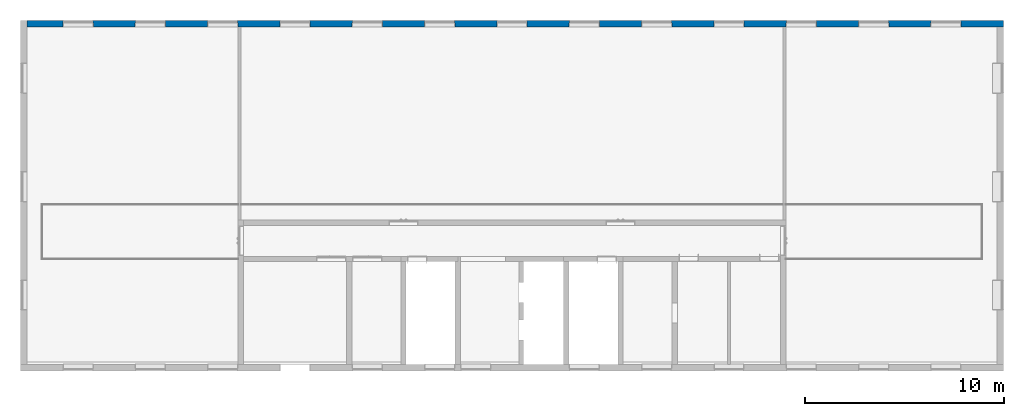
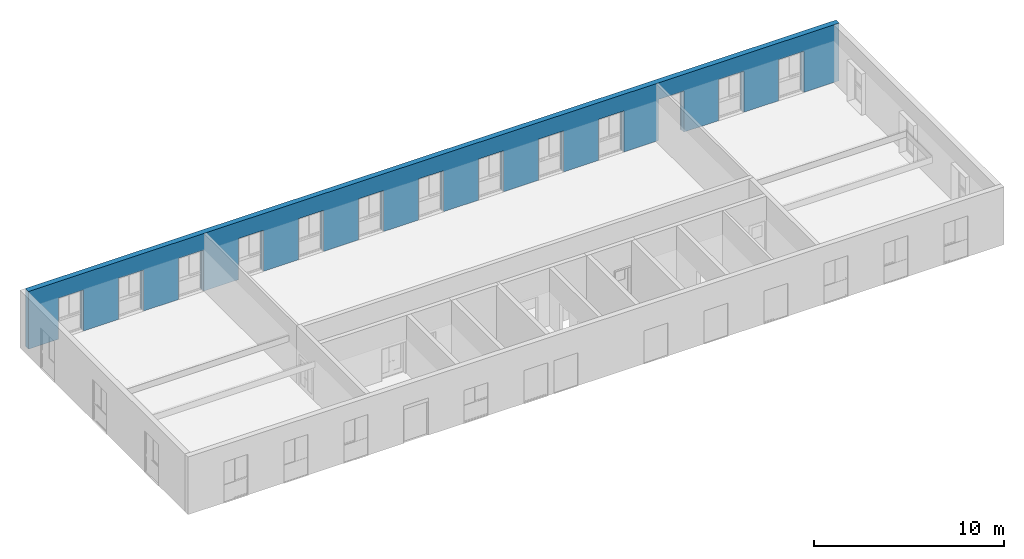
# One storey, part 10 of 15: 1 wall, 13 openings.
"""IFC4X3 building model written with IfcOpenShell, lengths in millimetres."""

from ifc_helpers import new_model, entity, si_unit, converted_unit, derived_unit, direction, frame, frame_2d, origin, place, context, subcontext, project, spatial, rectangle, extrude, faceted_brep, material, layer, layer_set, type_object, element, save


model = new_model("IFC4X3")

# Units and contexts
model_context = context("Model", 3, precision=0.01, world=origin(), true_north=direction((6.12303176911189e-17, 1.0)))
body_context = subcontext(model_context, "Body", "Model", "MODEL_VIEW")
ifc_project = project(units=[si_unit("LENGTHUNIT", "METRE", prefix="MILLI"), si_unit("AREAUNIT", "SQUARE_METRE"), si_unit("VOLUMEUNIT", "CUBIC_METRE"), converted_unit("PLANEANGLEUNIT", "DEGREE", entity("IfcPlaneAngleMeasure", 0.0174532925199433), si_unit("PLANEANGLEUNIT", "RADIAN"), dimensions=[0, 0, 0, 0, 0, 0, 0]), si_unit("MASSUNIT", "GRAM", prefix="KILO"), derived_unit("MASSDENSITYUNIT", [(si_unit("MASSUNIT", "GRAM", prefix="KILO"), 1), (si_unit("LENGTHUNIT", "METRE"), -3)]), derived_unit("IONCONCENTRATIONUNIT", [(si_unit("MASSUNIT", "GRAM", prefix="KILO"), 1), (si_unit("LENGTHUNIT", "METRE"), -3)]), derived_unit("MOMENTOFINERTIAUNIT", [(si_unit("LENGTHUNIT", "METRE"), 4)]), si_unit("TIMEUNIT", "SECOND"), si_unit("FREQUENCYUNIT", "HERTZ"), si_unit("THERMODYNAMICTEMPERATUREUNIT", "DEGREE_CELSIUS"), derived_unit("THERMALTRANSMITTANCEUNIT", [(si_unit("MASSUNIT", "GRAM", prefix="KILO"), 1), (si_unit("THERMODYNAMICTEMPERATUREUNIT", "KELVIN"), -1), (si_unit("TIMEUNIT", "SECOND"), -3)]), derived_unit("THERMALCONDUCTANCEUNIT", [(si_unit("MASSUNIT", "GRAM", prefix="KILO"), 1), (si_unit("THERMODYNAMICTEMPERATUREUNIT", "KELVIN"), -1), (si_unit("TIMEUNIT", "SECOND"), -3), (si_unit("LENGTHUNIT", "METRE"), 1)]), derived_unit("VOLUMETRICFLOWRATEUNIT", [(si_unit("LENGTHUNIT", "METRE", prefix="DECI"), 3), (si_unit("TIMEUNIT", "SECOND"), -1)]), derived_unit("MASSFLOWRATEUNIT", [(si_unit("MASSUNIT", "GRAM", prefix="KILO"), 1), (si_unit("TIMEUNIT", "SECOND"), -1)]), derived_unit("ROTATIONALFREQUENCYUNIT", [(si_unit("TIMEUNIT", "SECOND"), -1)]), si_unit("ELECTRICCURRENTUNIT", "AMPERE"), si_unit("ELECTRICVOLTAGEUNIT", "VOLT"), si_unit("POWERUNIT", "WATT"), si_unit("FORCEUNIT", "NEWTON", prefix="KILO"), si_unit("ILLUMINANCEUNIT", "LUX"), si_unit("LUMINOUSFLUXUNIT", "LUMEN"), si_unit("LUMINOUSINTENSITYUNIT", "CANDELA"), si_unit("ENERGYUNIT", "JOULE"), derived_unit("USERDEFINED", [(si_unit("MASSUNIT", "GRAM", prefix="KILO"), -1), (si_unit("LENGTHUNIT", "METRE"), -2), (si_unit("TIMEUNIT", "SECOND"), 3), (si_unit("LUMINOUSFLUXUNIT", "LUMEN"), 1)]), derived_unit("USERDEFINED", [(si_unit("MASSUNIT", "GRAM", prefix="KILO"), 1), (si_unit("TIMEUNIT", "SECOND"), -3), (si_unit("LENGTHUNIT", "METRE"), 3), (si_unit("ELECTRICCURRENTUNIT", "AMPERE"), -2)]), derived_unit("SOUNDPOWERUNIT", [(si_unit("MASSUNIT", "GRAM", prefix="KILO"), 1), (si_unit("TIMEUNIT", "SECOND"), -3), (si_unit("LENGTHUNIT", "METRE"), 2)]), derived_unit("SOUNDPRESSUREUNIT", [(si_unit("MASSUNIT", "GRAM", prefix="KILO"), 1), (si_unit("LENGTHUNIT", "METRE"), -1), (si_unit("TIMEUNIT", "SECOND"), -2)]), derived_unit("LINEARVELOCITYUNIT", [(si_unit("LENGTHUNIT", "METRE"), 1), (si_unit("TIMEUNIT", "SECOND"), -1)]), si_unit("PRESSUREUNIT", "PASCAL"), derived_unit("USERDEFINED", [(si_unit("MASSUNIT", "GRAM", prefix="KILO"), 1), (si_unit("LENGTHUNIT", "METRE"), -2), (si_unit("TIMEUNIT", "SECOND"), -2)]), derived_unit("LINEARFORCEUNIT", [(si_unit("MASSUNIT", "GRAM", prefix="KILO"), 1), (si_unit("TIMEUNIT", "SECOND"), -2)]), derived_unit("PLANARFORCEUNIT", [(si_unit("MASSUNIT", "GRAM", prefix="KILO"), 1), (si_unit("LENGTHUNIT", "METRE"), -1), (si_unit("TIMEUNIT", "SECOND"), -2)]), derived_unit("SPECIFICHEATCAPACITYUNIT", [(si_unit("THERMODYNAMICTEMPERATUREUNIT", "KELVIN"), -1), (si_unit("LENGTHUNIT", "METRE"), 2), (si_unit("TIMEUNIT", "SECOND"), -2)]), derived_unit("HEATFLUXDENSITYUNIT", [(si_unit("MASSUNIT", "GRAM", prefix="KILO"), 1), (si_unit("TIMEUNIT", "SECOND"), -3)]), derived_unit("HEATINGVALUEUNIT", [(si_unit("LENGTHUNIT", "METRE"), 2), (si_unit("TIMEUNIT", "SECOND"), -2)]), derived_unit("VAPORPERMEABILITYUNIT", [(si_unit("LENGTHUNIT", "METRE"), -1), (si_unit("TIMEUNIT", "SECOND"), 1)]), derived_unit("DYNAMICVISCOSITYUNIT", [(si_unit("MASSUNIT", "GRAM", prefix="KILO"), 1), (si_unit("TIMEUNIT", "SECOND"), -1), (si_unit("LENGTHUNIT", "METRE"), -1)]), derived_unit("THERMALEXPANSIONCOEFFICIENTUNIT", [(si_unit("THERMODYNAMICTEMPERATUREUNIT", "KELVIN"), -1)]), derived_unit("MODULUSOFELASTICITYUNIT", [(si_unit("MASSUNIT", "GRAM", prefix="KILO"), 1), (si_unit("LENGTHUNIT", "METRE"), -1), (si_unit("TIMEUNIT", "SECOND"), -2)]), derived_unit("ISOTHERMALMOISTURECAPACITYUNIT", [(si_unit("MASSUNIT", "GRAM", prefix="KILO"), -1), (si_unit("LENGTHUNIT", "METRE"), 3)]), derived_unit("MOISTUREDIFFUSIVITYUNIT", [(si_unit("TIMEUNIT", "SECOND"), -1), (si_unit("LENGTHUNIT", "METRE"), 2)]), derived_unit("AREADENSITYUNIT", [(si_unit("MASSUNIT", "GRAM", prefix="KILO"), 1), (si_unit("LENGTHUNIT", "METRE"), 2)]), derived_unit("MASSPERLENGTHUNIT", [(si_unit("MASSUNIT", "GRAM", prefix="KILO"), 1), (si_unit("LENGTHUNIT", "METRE"), -1)]), derived_unit("THERMALRESISTANCEUNIT", [(si_unit("MASSUNIT", "GRAM", prefix="KILO"), -1), (si_unit("TIMEUNIT", "SECOND"), 3), (si_unit("THERMODYNAMICTEMPERATUREUNIT", "KELVIN"), 1)]), derived_unit("ACCELERATIONUNIT", [(si_unit("LENGTHUNIT", "METRE"), 1), (si_unit("TIMEUNIT", "SECOND"), -2)]), derived_unit("ANGULARVELOCITYUNIT", [(si_unit("TIMEUNIT", "SECOND"), -1), (si_unit("PLANEANGLEUNIT", "RADIAN"), 1)]), derived_unit("LINEARSTIFFNESSUNIT", [(si_unit("MASSUNIT", "GRAM", prefix="KILO"), 1), (si_unit("TIMEUNIT", "SECOND"), -2)]), derived_unit("WARPINGCONSTANTUNIT", [(si_unit("LENGTHUNIT", "METRE"), 6)]), derived_unit("LINEARMOMENTUNIT", [(si_unit("MASSUNIT", "GRAM", prefix="KILO"), 1), (si_unit("LENGTHUNIT", "METRE"), 1), (si_unit("TIMEUNIT", "SECOND"), -2)]), derived_unit("TORQUEUNIT", [(si_unit("MASSUNIT", "GRAM", prefix="KILO"), 1), (si_unit("LENGTHUNIT", "METRE"), 2), (si_unit("TIMEUNIT", "SECOND"), -2)])], contexts=[model_context])

# Site, building, storey
site_placement = place(None, origin())
site = spatial("IfcSite", under=ifc_project, at=site_placement, Name="Default", CompositionType="ELEMENT")
building_placement = place(site_placement, origin())
building = spatial("IfcBuilding", under=site, at=building_placement, Name="事務所ビル", CompositionType="ELEMENT")
storey_placement = place(building_placement, frame((0.0, 0.0, 4300.0)))
storey = spatial("IfcBuildingStorey", under=building, at=storey_placement, Name="2FL", CompositionType="ELEMENT", Elevation=4300.0)

# Wall, openings
ifc_material_1 = material(Name="<Unnamed>")
ifc_layer_1 = layer(ifc_material_1, 46.0, Name="Layer")
ifc_material_2 = material(Name="合板", Category="一般")
ifc_layer_2 = layer(ifc_material_2, 12.0, Name="合板", Category="一般")
ifc_material_3 = material(Name="天然木材", Category="一般")
ifc_layer_3 = layer(ifc_material_3, 240.0, Name="天然木材", Category="一般")
ifc_layer_4 = layer(ifc_material_2, 12.0, Name="合板", Category="一般")
ifc_material_4 = material(Name="せっこうボード", Category="一般")
ifc_layer_5 = layer(ifc_material_4, 15.0, Name="せっこうボード", Category="一般")
ifc_layer_set = layer_set([ifc_layer_1, ifc_layer_2, ifc_layer_3, ifc_layer_4, ifc_layer_5], Name="標準壁:外装材46_構造用合板12_木240_構造用合板12_GB-R15")
wall_type = type_object("IfcWallType", Name="標準壁:外装材46_構造用合板12_木240_構", PredefinedType="STANDARD", material=ifc_layer_set)
wall_placement = place(storey_placement, frame((147.0, 17305.4999999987, 0.0)))
wall = element("IfcWall", 1, at=wall_placement, inside=storey, type_object=wall_type, material=ifc_layer_set, Name="標準壁:外装材46_構造用合板12_木240_構造用合板12_GB-R15", ObjectType="標準壁:外装材46_構造用合板12_木240_構造用合板12_GB-R15", PredefinedType="NOTDEFINED", context=body_context, shape_type="SweptSolid", body=[
    extrude(rectangle(XDim=49170.9999999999, YDim=325.0, at=frame_2d((24585.5, 0.0), x_axis=(1.0, 0.0))), origin(), (0.0, 0.0, 1.0), 3700.0),
])
opening_1_placement = place(wall_placement, frame((-147.0, -17305.4999999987, 0.0)))
element("IfcOpeningElement", 2, at=opening_1_placement, cuts=wall, Name="標準壁:外装材46_構造用合板12_木240_構造用合板12_GB-R15", PredefinedType="OPENING", context=body_context, shape_type="Brep", body=[
    faceted_brep([(45655.0, 17338.0, -105.0), (47165.0, 17338.0, -105.0), (47165.0, 17338.0, -35.0), (45655.0, 17338.0, -35.0), (45675.0, 17408.0, 2610.0), (45675.0, 17468.0, 2610.0), (45675.0, 17468.0, -10.0), (45675.0, 17408.0, -10.0), (47145.0, 17408.0, -10.0), (47145.0, 17468.0, -10.0), (47145.0, 17468.0, 2610.0), (47145.0, 17408.0, 2610.0), (45645.0, 17133.0, -35.0), (45645.0, 17133.0, 2635.0), (45645.0, 17338.0, 2635.0), (45645.0, 17338.0, -35.0), (47175.0, 17133.0, -35.0), (47175.0, 17338.0, -35.0), (47175.0, 17338.0, 2635.0), (47175.0, 17133.0, 2635.0), (47165.0, 17338.0, 2630.0), (45655.0, 17338.0, 2630.0), (45655.0, 17408.0, 2630.0), (45655.0, 17408.0, -115.769230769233), (47165.0, 17408.0, -115.769230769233), (47165.0, 17408.0, 2630.0)], [[[0, 1, 2, 3]], [[4, 5, 6, 7]], [[8, 9, 10, 11]], [[7, 6, 9, 8]], [[5, 4, 11, 10]], [[12, 13, 14, 15]], [[16, 17, 18, 19]], [[12, 15, 3, 2, 17, 16]], [[15, 14, 18, 17, 2, 20, 21, 3]], [[14, 13, 19, 18]], [[13, 12, 16, 19]], [[21, 22, 23, 0, 3]], [[1, 24, 25, 20, 2]], [[0, 23, 24, 1]], [[23, 22, 25, 24], [4, 7, 8, 11]], [[22, 21, 20, 25]], [[6, 5, 10, 9]]]),
])
opening_2_placement = place(wall_placement, frame((-147.0, -17305.4999999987, 0.0)))
element("IfcOpeningElement", 3, at=opening_2_placement, cuts=wall, Name="標準壁:外装材46_構造用合板12_木240_構造用合板12_GB-R15", PredefinedType="OPENING", context=body_context, shape_type="Brep", body=[
    faceted_brep([(42015.0, 17338.0, -105.0), (43525.0, 17338.0, -105.0), (43525.0, 17338.0, -35.0), (42015.0, 17338.0, -35.0), (42035.0, 17408.0, 2610.0), (42035.0, 17468.0, 2610.0), (42035.0, 17468.0, -10.0), (42035.0, 17408.0, -10.0), (43505.0, 17408.0, -10.0), (43505.0, 17468.0, -10.0), (43505.0, 17468.0, 2610.0), (43505.0, 17408.0, 2610.0), (42005.0, 17133.0, -35.0), (42005.0, 17133.0, 2635.0), (42005.0, 17338.0, 2635.0), (42005.0, 17338.0, -35.0), (43535.0, 17133.0, -35.0), (43535.0, 17338.0, -35.0), (43535.0, 17338.0, 2635.0), (43535.0, 17133.0, 2635.0), (43525.0, 17338.0, 2630.0), (42015.0, 17338.0, 2630.0), (42015.0, 17408.0, 2630.0), (42015.0, 17408.0, -115.769230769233), (43525.0, 17408.0, -115.769230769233), (43525.0, 17408.0, 2630.0)], [[[0, 1, 2, 3]], [[4, 5, 6, 7]], [[8, 9, 10, 11]], [[7, 6, 9, 8]], [[5, 4, 11, 10]], [[12, 13, 14, 15]], [[16, 17, 18, 19]], [[12, 15, 3, 2, 17, 16]], [[15, 14, 18, 17, 2, 20, 21, 3]], [[14, 13, 19, 18]], [[13, 12, 16, 19]], [[21, 22, 23, 0, 3]], [[1, 24, 25, 20, 2]], [[0, 23, 24, 1]], [[23, 22, 25, 24], [4, 7, 8, 11]], [[22, 21, 20, 25]], [[6, 5, 10, 9]]]),
])
opening_3_placement = place(wall_placement, frame((-147.0, -17305.4999999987, 0.0)))
element("IfcOpeningElement", 4, at=opening_3_placement, cuts=wall, Name="標準壁:外装材46_構造用合板12_木240_構造用合板12_GB-R15", PredefinedType="OPENING", context=body_context, shape_type="Brep", body=[
    faceted_brep([(38375.0, 17338.0, -105.0), (39885.0, 17338.0, -105.0), (39885.0, 17338.0, -35.0), (38375.0, 17338.0, -35.0), (38395.0, 17408.0, 2610.0), (38395.0, 17468.0, 2610.0), (38395.0, 17468.0, -10.0), (38395.0, 17408.0, -10.0), (39865.0, 17408.0, -10.0), (39865.0, 17468.0, -10.0), (39865.0, 17468.0, 2610.0), (39865.0, 17408.0, 2610.0), (38365.0, 17133.0, -35.0), (38365.0, 17133.0, 2635.0), (38365.0, 17338.0, 2635.0), (38365.0, 17338.0, -35.0), (39895.0, 17133.0, -35.0), (39895.0, 17338.0, -35.0), (39895.0, 17338.0, 2635.0), (39895.0, 17133.0, 2635.0), (39885.0, 17338.0, 2630.0), (38375.0, 17338.0, 2630.0), (38375.0, 17408.0, 2630.0), (38375.0, 17408.0, -115.769230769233), (39885.0, 17408.0, -115.769230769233), (39885.0, 17408.0, 2630.0)], [[[0, 1, 2, 3]], [[4, 5, 6, 7]], [[8, 9, 10, 11]], [[7, 6, 9, 8]], [[5, 4, 11, 10]], [[12, 13, 14, 15]], [[16, 17, 18, 19]], [[12, 15, 3, 2, 17, 16]], [[15, 14, 18, 17, 2, 20, 21, 3]], [[14, 13, 19, 18]], [[13, 12, 16, 19]], [[21, 22, 23, 0, 3]], [[1, 24, 25, 20, 2]], [[0, 23, 24, 1]], [[23, 22, 25, 24], [4, 7, 8, 11]], [[22, 21, 20, 25]], [[6, 5, 10, 9]]]),
])
opening_4_placement = place(wall_placement, frame((-147.0, -17305.4999999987, 0.0)))
element("IfcOpeningElement", 5, at=opening_4_placement, cuts=wall, Name="標準壁:外装材46_構造用合板12_木240_構造用合板12_GB-R15", PredefinedType="OPENING", context=body_context, shape_type="Brep", body=[
    faceted_brep([(34735.0, 17338.0, -105.0), (36245.0, 17338.0, -105.0), (36245.0, 17338.0, -35.0), (34735.0, 17338.0, -35.0), (34755.0, 17408.0, 2610.0), (34755.0, 17468.0, 2610.0), (34755.0, 17468.0, -10.0), (34755.0, 17408.0, -10.0), (36225.0, 17408.0, -10.0), (36225.0, 17468.0, -10.0), (36225.0, 17468.0, 2610.0), (36225.0, 17408.0, 2610.0), (34725.0, 17133.0, -35.0), (34725.0, 17133.0, 2635.0), (34725.0, 17338.0, 2635.0), (34725.0, 17338.0, -35.0), (36255.0, 17133.0, -35.0), (36255.0, 17338.0, -35.0), (36255.0, 17338.0, 2635.0), (36255.0, 17133.0, 2635.0), (36245.0, 17338.0, 2630.0), (34735.0, 17338.0, 2630.0), (34735.0, 17408.0, 2630.0), (34735.0, 17408.0, -115.769230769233), (36245.0, 17408.0, -115.769230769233), (36245.0, 17408.0, 2630.0)], [[[0, 1, 2, 3]], [[4, 5, 6, 7]], [[8, 9, 10, 11]], [[7, 6, 9, 8]], [[5, 4, 11, 10]], [[12, 13, 14, 15]], [[16, 17, 18, 19]], [[12, 15, 3, 2, 17, 16]], [[15, 14, 18, 17, 2, 20, 21, 3]], [[14, 13, 19, 18]], [[13, 12, 16, 19]], [[21, 22, 23, 0, 3]], [[1, 24, 25, 20, 2]], [[0, 23, 24, 1]], [[23, 22, 25, 24], [4, 7, 8, 11]], [[22, 21, 20, 25]], [[6, 5, 10, 9]]]),
])
opening_5_placement = place(wall_placement, frame((-147.0, -17305.4999999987, 0.0)))
element("IfcOpeningElement", 6, at=opening_5_placement, cuts=wall, Name="標準壁:外装材46_構造用合板12_木240_構造用合板12_GB-R15", PredefinedType="OPENING", context=body_context, shape_type="Brep", body=[
    faceted_brep([(31095.0, 17338.0, -105.0), (32605.0, 17338.0, -105.0), (32605.0, 17338.0, -35.0), (31095.0, 17338.0, -35.0), (31115.0, 17408.0, 2610.0), (31115.0, 17468.0, 2610.0), (31115.0, 17468.0, -10.0), (31115.0, 17408.0, -10.0), (32585.0, 17408.0, -10.0), (32585.0, 17468.0, -10.0), (32585.0, 17468.0, 2610.0), (32585.0, 17408.0, 2610.0), (31085.0, 17133.0, -35.0), (31085.0, 17133.0, 2635.0), (31085.0, 17338.0, 2635.0), (31085.0, 17338.0, -35.0), (32615.0, 17133.0, -35.0), (32615.0, 17338.0, -35.0), (32615.0, 17338.0, 2635.0), (32615.0, 17133.0, 2635.0), (32605.0, 17338.0, 2630.0), (31095.0, 17338.0, 2630.0), (31095.0, 17408.0, 2630.0), (31095.0, 17408.0, -115.769230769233), (32605.0, 17408.0, -115.769230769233), (32605.0, 17408.0, 2630.0)], [[[0, 1, 2, 3]], [[4, 5, 6, 7]], [[8, 9, 10, 11]], [[7, 6, 9, 8]], [[5, 4, 11, 10]], [[12, 13, 14, 15]], [[16, 17, 18, 19]], [[12, 15, 3, 2, 17, 16]], [[15, 14, 18, 17, 2, 20, 21, 3]], [[14, 13, 19, 18]], [[13, 12, 16, 19]], [[21, 22, 23, 0, 3]], [[1, 24, 25, 20, 2]], [[0, 23, 24, 1]], [[23, 22, 25, 24], [4, 7, 8, 11]], [[22, 21, 20, 25]], [[6, 5, 10, 9]]]),
])
opening_6_placement = place(wall_placement, frame((-147.0, -17305.4999999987, 0.0)))
element("IfcOpeningElement", 7, at=opening_6_placement, cuts=wall, Name="標準壁:外装材46_構造用合板12_木240_構造用合板12_GB-R15", PredefinedType="OPENING", context=body_context, shape_type="Brep", body=[
    faceted_brep([(27455.0, 17338.0, -105.0), (28965.0, 17338.0, -105.0), (28965.0, 17338.0, -35.0), (27455.0, 17338.0, -35.0), (27475.0, 17408.0, 2610.0), (27475.0, 17468.0, 2610.0), (27475.0, 17468.0, -10.0), (27475.0, 17408.0, -10.0), (28945.0, 17408.0, -10.0), (28945.0, 17468.0, -10.0), (28945.0, 17468.0, 2610.0), (28945.0, 17408.0, 2610.0), (27445.0, 17133.0, -35.0), (27445.0, 17133.0, 2635.0), (27445.0, 17338.0, 2635.0), (27445.0, 17338.0, -35.0), (28975.0, 17133.0, -35.0), (28975.0, 17338.0, -35.0), (28975.0, 17338.0, 2635.0), (28975.0, 17133.0, 2635.0), (28965.0, 17338.0, 2630.0), (27455.0, 17338.0, 2630.0), (27455.0, 17408.0, 2630.0), (27455.0, 17408.0, -115.769230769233), (28965.0, 17408.0, -115.769230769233), (28965.0, 17408.0, 2630.0)], [[[0, 1, 2, 3]], [[4, 5, 6, 7]], [[8, 9, 10, 11]], [[7, 6, 9, 8]], [[5, 4, 11, 10]], [[12, 13, 14, 15]], [[16, 17, 18, 19]], [[12, 15, 3, 2, 17, 16]], [[15, 14, 18, 17, 2, 20, 21, 3]], [[14, 13, 19, 18]], [[13, 12, 16, 19]], [[21, 22, 23, 0, 3]], [[1, 24, 25, 20, 2]], [[0, 23, 24, 1]], [[23, 22, 25, 24], [4, 7, 8, 11]], [[22, 21, 20, 25]], [[6, 5, 10, 9]]]),
])
opening_7_placement = place(wall_placement, frame((-147.0, -17305.4999999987, 0.0)))
element("IfcOpeningElement", 8, at=opening_7_placement, cuts=wall, Name="標準壁:外装材46_構造用合板12_木240_構造用合板12_GB-R15", PredefinedType="OPENING", context=body_context, shape_type="Brep", body=[
    faceted_brep([(23815.0, 17338.0, -105.0), (25325.0, 17338.0, -105.0), (25325.0, 17338.0, -35.0), (23815.0, 17338.0, -35.0), (23835.0, 17408.0, 2610.0), (23835.0, 17468.0, 2610.0), (23835.0, 17468.0, -10.0), (23835.0, 17408.0, -10.0), (25305.0, 17408.0, -10.0), (25305.0, 17468.0, -10.0), (25305.0, 17468.0, 2610.0), (25305.0, 17408.0, 2610.0), (23805.0, 17133.0, -35.0), (23805.0, 17133.0, 2635.0), (23805.0, 17338.0, 2635.0), (23805.0, 17338.0, -35.0), (25335.0, 17133.0, -35.0), (25335.0, 17338.0, -35.0), (25335.0, 17338.0, 2635.0), (25335.0, 17133.0, 2635.0), (25325.0, 17338.0, 2630.0), (23815.0, 17338.0, 2630.0), (23815.0, 17408.0, 2630.0), (23815.0, 17408.0, -115.769230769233), (25325.0, 17408.0, -115.769230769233), (25325.0, 17408.0, 2630.0)], [[[0, 1, 2, 3]], [[4, 5, 6, 7]], [[8, 9, 10, 11]], [[7, 6, 9, 8]], [[5, 4, 11, 10]], [[12, 13, 14, 15]], [[16, 17, 18, 19]], [[12, 15, 3, 2, 17, 16]], [[15, 14, 18, 17, 2, 20, 21, 3]], [[14, 13, 19, 18]], [[13, 12, 16, 19]], [[21, 22, 23, 0, 3]], [[1, 24, 25, 20, 2]], [[0, 23, 24, 1]], [[23, 22, 25, 24], [4, 7, 8, 11]], [[22, 21, 20, 25]], [[6, 5, 10, 9]]]),
])
opening_8_placement = place(wall_placement, frame((-147.0, -17305.4999999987, 0.0)))
element("IfcOpeningElement", 9, at=opening_8_placement, cuts=wall, Name="標準壁:外装材46_構造用合板12_木240_構造用合板12_GB-R15", PredefinedType="OPENING", context=body_context, shape_type="Brep", body=[
    faceted_brep([(20175.0, 17338.0, -105.0), (21685.0, 17338.0, -105.0), (21685.0, 17338.0, -35.0), (20175.0, 17338.0, -35.0), (20195.0, 17408.0, 2610.0), (20195.0, 17468.0, 2610.0), (20195.0, 17468.0, -10.0), (20195.0, 17408.0, -10.0), (21665.0, 17408.0, -10.0), (21665.0, 17468.0, -10.0), (21665.0, 17468.0, 2610.0), (21665.0, 17408.0, 2610.0), (20165.0, 17133.0, -35.0), (20165.0, 17133.0, 2635.0), (20165.0, 17338.0, 2635.0), (20165.0, 17338.0, -35.0), (21695.0, 17133.0, -35.0), (21695.0, 17338.0, -35.0), (21695.0, 17338.0, 2635.0), (21695.0, 17133.0, 2635.0), (21685.0, 17338.0, 2630.0), (20175.0, 17338.0, 2630.0), (20175.0, 17408.0, 2630.0), (20175.0, 17408.0, -115.769230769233), (21685.0, 17408.0, -115.769230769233), (21685.0, 17408.0, 2630.0)], [[[0, 1, 2, 3]], [[4, 5, 6, 7]], [[8, 9, 10, 11]], [[7, 6, 9, 8]], [[5, 4, 11, 10]], [[12, 13, 14, 15]], [[16, 17, 18, 19]], [[12, 15, 3, 2, 17, 16]], [[15, 14, 18, 17, 2, 20, 21, 3]], [[14, 13, 19, 18]], [[13, 12, 16, 19]], [[21, 22, 23, 0, 3]], [[1, 24, 25, 20, 2]], [[0, 23, 24, 1]], [[23, 22, 25, 24], [4, 7, 8, 11]], [[22, 21, 20, 25]], [[6, 5, 10, 9]]]),
])
opening_9_placement = place(wall_placement, frame((-147.0, -17305.4999999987, 0.0)))
element("IfcOpeningElement", 10, at=opening_9_placement, cuts=wall, Name="標準壁:外装材46_構造用合板12_木240_構造用合板12_GB-R15", PredefinedType="OPENING", context=body_context, shape_type="Brep", body=[
    faceted_brep([(16535.0, 17338.0, -105.0), (18045.0, 17338.0, -105.0), (18045.0, 17338.0, -35.0), (16535.0, 17338.0, -35.0), (16555.0, 17408.0, 2610.0), (16555.0, 17468.0, 2610.0), (16555.0, 17468.0, -10.0), (16555.0, 17408.0, -10.0), (18025.0, 17408.0, -10.0), (18025.0, 17468.0, -10.0), (18025.0, 17468.0, 2610.0), (18025.0, 17408.0, 2610.0), (16525.0, 17133.0, -35.0), (16525.0, 17133.0, 2635.0), (16525.0, 17338.0, 2635.0), (16525.0, 17338.0, -35.0), (18055.0, 17133.0, -35.0), (18055.0, 17338.0, -35.0), (18055.0, 17338.0, 2635.0), (18055.0, 17133.0, 2635.0), (18045.0, 17338.0, 2630.0), (16535.0, 17338.0, 2630.0), (16535.0, 17408.0, 2630.0), (16535.0, 17408.0, -115.769230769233), (18045.0, 17408.0, -115.769230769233), (18045.0, 17408.0, 2630.0)], [[[0, 1, 2, 3]], [[4, 5, 6, 7]], [[8, 9, 10, 11]], [[7, 6, 9, 8]], [[5, 4, 11, 10]], [[12, 13, 14, 15]], [[16, 17, 18, 19]], [[12, 15, 3, 2, 17, 16]], [[15, 14, 18, 17, 2, 20, 21, 3]], [[14, 13, 19, 18]], [[13, 12, 16, 19]], [[21, 22, 23, 0, 3]], [[1, 24, 25, 20, 2]], [[0, 23, 24, 1]], [[23, 22, 25, 24], [4, 7, 8, 11]], [[22, 21, 20, 25]], [[6, 5, 10, 9]]]),
])
opening_10_placement = place(wall_placement, frame((-147.0, -17305.4999999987, 0.0)))
element("IfcOpeningElement", 11, at=opening_10_placement, cuts=wall, Name="標準壁:外装材46_構造用合板12_木240_構造用合板12_GB-R15", PredefinedType="OPENING", context=body_context, shape_type="Brep", body=[
    faceted_brep([(12895.0, 17338.0, -105.0), (14405.0, 17338.0, -105.0), (14405.0, 17338.0, -35.0), (12895.0, 17338.0, -35.0), (12915.0, 17408.0, 2610.0), (12915.0, 17468.0, 2610.0), (12915.0, 17468.0, -10.0), (12915.0, 17408.0, -10.0), (14385.0, 17408.0, -10.0), (14385.0, 17468.0, -10.0), (14385.0, 17468.0, 2610.0), (14385.0, 17408.0, 2610.0), (12885.0, 17133.0, -35.0), (12885.0, 17133.0, 2635.0), (12885.0, 17338.0, 2635.0), (12885.0, 17338.0, -35.0), (14415.0, 17133.0, -35.0), (14415.0, 17338.0, -35.0), (14415.0, 17338.0, 2635.0), (14415.0, 17133.0, 2635.0), (14405.0, 17338.0, 2630.0), (12895.0, 17338.0, 2630.0), (12895.0, 17408.0, 2630.0), (12895.0, 17408.0, -115.769230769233), (14405.0, 17408.0, -115.769230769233), (14405.0, 17408.0, 2630.0)], [[[0, 1, 2, 3]], [[4, 5, 6, 7]], [[8, 9, 10, 11]], [[7, 6, 9, 8]], [[5, 4, 11, 10]], [[12, 13, 14, 15]], [[16, 17, 18, 19]], [[12, 15, 3, 2, 17, 16]], [[15, 14, 18, 17, 2, 20, 21, 3]], [[14, 13, 19, 18]], [[13, 12, 16, 19]], [[21, 22, 23, 0, 3]], [[1, 24, 25, 20, 2]], [[0, 23, 24, 1]], [[23, 22, 25, 24], [4, 7, 8, 11]], [[22, 21, 20, 25]], [[6, 5, 10, 9]]]),
])
opening_11_placement = place(wall_placement, frame((-147.0, -17305.4999999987, 0.0)))
element("IfcOpeningElement", 12, at=opening_11_placement, cuts=wall, Name="標準壁:外装材46_構造用合板12_木240_構造用合板12_GB-R15", PredefinedType="OPENING", context=body_context, shape_type="Brep", body=[
    faceted_brep([(9255.0, 17338.0, -105.0), (10765.0, 17338.0, -105.0), (10765.0, 17338.0, -35.0), (9255.0, 17338.0, -35.0), (9275.0, 17408.0, 2610.0), (9275.0, 17468.0, 2610.0), (9275.0, 17468.0, -10.0), (9275.0, 17408.0, -10.0), (10745.0, 17408.0, -10.0), (10745.0, 17468.0, -10.0), (10745.0, 17468.0, 2610.0), (10745.0, 17408.0, 2610.0), (9245.0, 17133.0, -35.0), (9245.0, 17133.0, 2635.0), (9245.0, 17338.0, 2635.0), (9245.0, 17338.0, -35.0), (10775.0, 17133.0, -35.0), (10775.0, 17338.0, -35.0), (10775.0, 17338.0, 2635.0), (10775.0, 17133.0, 2635.0), (10765.0, 17338.0, 2630.0), (9255.0, 17338.0, 2630.0), (9255.0, 17408.0, 2630.0), (9255.0, 17408.0, -115.769230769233), (10765.0, 17408.0, -115.769230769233), (10765.0, 17408.0, 2630.0)], [[[0, 1, 2, 3]], [[4, 5, 6, 7]], [[8, 9, 10, 11]], [[7, 6, 9, 8]], [[5, 4, 11, 10]], [[12, 13, 14, 15]], [[16, 17, 18, 19]], [[12, 15, 3, 2, 17, 16]], [[15, 14, 18, 17, 2, 20, 21, 3]], [[14, 13, 19, 18]], [[13, 12, 16, 19]], [[21, 22, 23, 0, 3]], [[1, 24, 25, 20, 2]], [[0, 23, 24, 1]], [[23, 22, 25, 24], [4, 7, 8, 11]], [[22, 21, 20, 25]], [[6, 5, 10, 9]]]),
])
opening_12_placement = place(wall_placement, frame((-147.0, -17305.4999999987, 0.0)))
element("IfcOpeningElement", 13, at=opening_12_placement, cuts=wall, Name="標準壁:外装材46_構造用合板12_木240_構造用合板12_GB-R15", PredefinedType="OPENING", context=body_context, shape_type="Brep", body=[
    faceted_brep([(5615.0, 17338.0, -105.0), (7125.0, 17338.0, -105.0), (7125.0, 17338.0, -35.0), (5615.0, 17338.0, -35.0), (5635.0, 17408.0, 2610.0), (5635.0, 17468.0, 2610.0), (5635.0, 17468.0, -10.0), (5635.0, 17408.0, -10.0), (7105.0, 17408.0, -10.0), (7105.0, 17468.0, -10.0), (7105.0, 17468.0, 2610.0), (7105.0, 17408.0, 2610.0), (5605.0, 17133.0, -35.0), (5605.0, 17133.0, 2635.0), (5605.0, 17338.0, 2635.0), (5605.0, 17338.0, -35.0), (7135.0, 17133.0, -35.0), (7135.0, 17338.0, -35.0), (7135.0, 17338.0, 2635.0), (7135.0, 17133.0, 2635.0), (7125.0, 17338.0, 2630.0), (5615.0, 17338.0, 2630.0), (5615.0, 17408.0, 2630.0), (5615.0, 17408.0, -115.769230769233), (7125.0, 17408.0, -115.769230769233), (7125.0, 17408.0, 2630.0)], [[[0, 1, 2, 3]], [[4, 5, 6, 7]], [[8, 9, 10, 11]], [[7, 6, 9, 8]], [[5, 4, 11, 10]], [[12, 13, 14, 15]], [[16, 17, 18, 19]], [[12, 15, 3, 2, 17, 16]], [[15, 14, 18, 17, 2, 20, 21, 3]], [[14, 13, 19, 18]], [[13, 12, 16, 19]], [[21, 22, 23, 0, 3]], [[1, 24, 25, 20, 2]], [[0, 23, 24, 1]], [[23, 22, 25, 24], [4, 7, 8, 11]], [[22, 21, 20, 25]], [[6, 5, 10, 9]]]),
])
opening_13_placement = place(wall_placement, frame((-147.0, -17305.4999999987, 0.0)))
element("IfcOpeningElement", 14, at=opening_13_placement, cuts=wall, Name="標準壁:外装材46_構造用合板12_木240_構造用合板12_GB-R15", PredefinedType="OPENING", context=body_context, shape_type="Brep", body=[
    faceted_brep([(1975.0, 17338.0, -105.0), (3485.0, 17338.0, -105.0), (3485.0, 17338.0, -35.0), (1975.0, 17338.0, -35.0), (1995.0, 17408.0, 2610.0), (1995.0, 17468.0, 2610.0), (1995.0, 17468.0, -10.0), (1995.0, 17408.0, -10.0), (3465.0, 17408.0, -10.0), (3465.0, 17468.0, -10.0), (3465.0, 17468.0, 2610.0), (3465.0, 17408.0, 2610.0), (1965.0, 17133.0, -35.0), (1965.0, 17133.0, 2635.0), (1965.0, 17338.0, 2635.0), (1965.0, 17338.0, -35.0), (3495.0, 17133.0, -35.0), (3495.0, 17338.0, -35.0), (3495.0, 17338.0, 2635.0), (3495.0, 17133.0, 2635.0), (3485.0, 17338.0, 2630.0), (1975.0, 17338.0, 2630.0), (1975.0, 17408.0, 2630.0), (1975.0, 17408.0, -115.769230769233), (3485.0, 17408.0, -115.769230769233), (3485.0, 17408.0, 2630.0)], [[[0, 1, 2, 3]], [[4, 5, 6, 7]], [[8, 9, 10, 11]], [[7, 6, 9, 8]], [[5, 4, 11, 10]], [[12, 13, 14, 15]], [[16, 17, 18, 19]], [[12, 15, 3, 2, 17, 16]], [[15, 14, 18, 17, 2, 20, 21, 3]], [[14, 13, 19, 18]], [[13, 12, 16, 19]], [[21, 22, 23, 0, 3]], [[1, 24, 25, 20, 2]], [[0, 23, 24, 1]], [[23, 22, 25, 24], [4, 7, 8, 11]], [[22, 21, 20, 25]], [[6, 5, 10, 9]]]),
])

save(model, "model.ifc")
